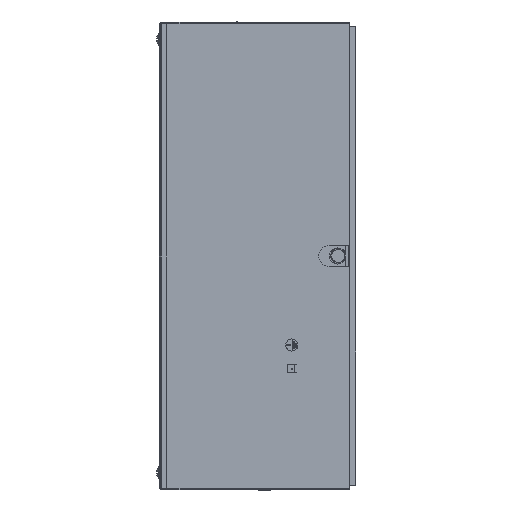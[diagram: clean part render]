
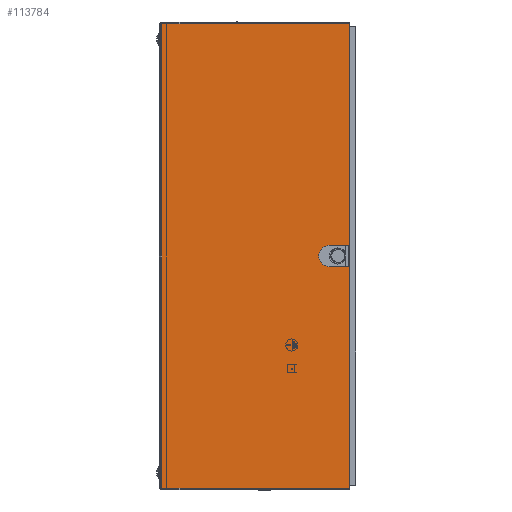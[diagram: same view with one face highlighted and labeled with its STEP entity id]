
A CAD part, left-side view. The second image highlights one B-rep face of the part: STEP entity #113784.
In plain terms, the highlighted planar face has unit normal (-1, 0, 0).
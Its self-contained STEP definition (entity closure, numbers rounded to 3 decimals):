
#1086 = CARTESIAN_POINT ( 'NONE',  ( -6.5, 0., -10.5 ) ) ;
#2317 = EDGE_LOOP ( 'NONE', ( #113794, #114042 ) ) ;
#2646 = VERTEX_POINT ( 'NONE', #66894 ) ;
#15466 = DIRECTION ( 'NONE',  ( 0., 1., 0. ) ) ;
#16640 = DIRECTION ( 'NONE',  ( 1., 0., 0. ) ) ;
#16641 = CARTESIAN_POINT ( 'NONE',  ( -6.5, 187., -232. ) ) ;
#16642 = AXIS2_PLACEMENT_3D ( 'NONE', #16641, #16640, #15466 ) ;
#16650 = FACE_OUTER_BOUND ( 'NONE', #114027, .T. ) ;
#16659 = FACE_BOUND ( 'NONE', #2317, .T. ) ;
#16670 = PLANE ( 'NONE',  #16642 ) ;
#17257 = CARTESIAN_POINT ( 'NONE',  ( -6.5, 0., 10.5 ) ) ;
#21199 = LINE ( 'NONE', #21506, #21504 ) ;
#21339 = DIRECTION ( 'NONE',  ( 0., 0., 1. ) ) ;
#21342 = VECTOR ( 'NONE', #21339, 1000. ) ;
#21502 = DIRECTION ( 'NONE',  ( 0., -1., 0. ) ) ;
#21504 = VECTOR ( 'NONE', #21502, 1000. ) ;
#21506 = CARTESIAN_POINT ( 'NONE',  ( -6.5, 187., -230.429 ) ) ;
#21538 = CARTESIAN_POINT ( 'NONE',  ( -6.5, 186., 232. ) ) ;
#21540 = LINE ( 'NONE', #21538, #21342 ) ;
#21995 = LINE ( 'NONE', #22016, #22008 ) ;
#22007 = DIRECTION ( 'NONE',  ( 0., 1., 0. ) ) ;
#22008 = VECTOR ( 'NONE', #22007, 1000. ) ;
#22016 = CARTESIAN_POINT ( 'NONE',  ( -6.5, 20., 10.5 ) ) ;
#25223 = CARTESIAN_POINT ( 'NONE',  ( -6.5, 186., -230.429 ) ) ;
#25395 = CARTESIAN_POINT ( 'NONE',  ( -6.5, 20., -10.5 ) ) ;
#25475 = CARTESIAN_POINT ( 'NONE',  ( -6.5, 20., 10.5 ) ) ;
#26069 = AXIS2_PLACEMENT_3D ( 'NONE', #26162, #26451, #26310 ) ;
#26101 = CIRCLE ( 'NONE', #26069, 0.1 ) ;
#26106 = DIRECTION ( 'NONE',  ( 0., -1., 0. ) ) ;
#26162 = CARTESIAN_POINT ( 'NONE',  ( -6.5, 57., -112. ) ) ;
#26284 = LINE ( 'NONE', #26356, #26354 ) ;
#26310 = DIRECTION ( 'NONE',  ( 0., -1., 0. ) ) ;
#26354 = VECTOR ( 'NONE', #26106, 1000. ) ;
#26356 = CARTESIAN_POINT ( 'NONE',  ( -6.5, 187., 230.429 ) ) ;
#26451 = DIRECTION ( 'NONE',  ( -1., 0., 0. ) ) ;
#38108 = CIRCLE ( 'NONE', #38124, 10.5 ) ;
#38113 = DIRECTION ( 'NONE',  ( 0., 1., 0. ) ) ;
#38115 = CARTESIAN_POINT ( 'NONE',  ( -6.5, 20., 0. ) ) ;
#38121 = DIRECTION ( 'NONE',  ( -1., 0., 0. ) ) ;
#38124 = AXIS2_PLACEMENT_3D ( 'NONE', #38115, #38121, #38113 ) ;
#40408 = LINE ( 'NONE', #40443, #40463 ) ;
#40441 = DIRECTION ( 'NONE',  ( 0., 0., 1. ) ) ;
#40443 = CARTESIAN_POINT ( 'NONE',  ( -6.5, 0., -232. ) ) ;
#40463 = VECTOR ( 'NONE', #40441, 1000. ) ;
#40522 = CARTESIAN_POINT ( 'NONE',  ( -6.5, 0., -10.5 ) ) ;
#40523 = LINE ( 'NONE', #40522, #40534 ) ;
#40533 = DIRECTION ( 'NONE',  ( 0., -1., 0. ) ) ;
#40534 = VECTOR ( 'NONE', #40533, 1000. ) ;
#66894 = CARTESIAN_POINT ( 'NONE',  ( -6.5, 0., 230.429 ) ) ;
#111935 = VERTEX_POINT ( 'NONE', #113079 ) ;
#111937 = VERTEX_POINT ( 'NONE', #113106 ) ;
#111948 = EDGE_CURVE ( 'NONE', #111937, #111935, #113323, .T. ) ;
#112184 = EDGE_CURVE ( 'NONE', #112195, #112365, #113175, .T. ) ;
#112195 = VERTEX_POINT ( 'NONE', #116347 ) ;
#112365 = VERTEX_POINT ( 'NONE', #1086 ) ;
#113027 = DIRECTION ( 'NONE',  ( 0., -1., 0. ) ) ;
#113079 = CARTESIAN_POINT ( 'NONE',  ( -6.5, 56.9, -112. ) ) ;
#113106 = CARTESIAN_POINT ( 'NONE',  ( -6.5, 57.1, -112. ) ) ;
#113175 = LINE ( 'NONE', #113996, #114028 ) ;
#113293 = DIRECTION ( 'NONE',  ( -1., 0., 0. ) ) ;
#113296 = CARTESIAN_POINT ( 'NONE',  ( -6.5, 57., -112. ) ) ;
#113298 = AXIS2_PLACEMENT_3D ( 'NONE', #113296, #113293, #113027 ) ;
#113323 = CIRCLE ( 'NONE', #113298, 0.1 ) ;
#113784 = ADVANCED_FACE ( 'NONE', ( #16659, #16650 ), #16670, .F. ) ;
#113788 = VERTEX_POINT ( 'NONE', #17257 ) ;
#113794 = ORIENTED_EDGE ( 'NONE', *, *, #114064, .F. ) ;
#113802 = ORIENTED_EDGE ( 'NONE', *, *, #114183, .F. ) ;
#113804 = EDGE_CURVE ( 'NONE', #113788, #114045, #21995, .T. ) ;
#113878 = ORIENTED_EDGE ( 'NONE', *, *, #114194, .T. ) ;
#113939 = EDGE_CURVE ( 'NONE', #114024, #112195, #21199, .T. ) ;
#113942 = EDGE_CURVE ( 'NONE', #114024, #114258, #21540, .T. ) ;
#113960 = ORIENTED_EDGE ( 'NONE', *, *, #114069, .F. ) ;
#113996 = CARTESIAN_POINT ( 'NONE',  ( -6.5, 0., -232. ) ) ;
#114024 = VERTEX_POINT ( 'NONE', #25223 ) ;
#114025 = VERTEX_POINT ( 'NONE', #25395 ) ;
#114027 = EDGE_LOOP ( 'NONE', ( #114133, #114033, #113802, #114180, #113878, #113960, #114086, #114122 ) ) ;
#114028 = VECTOR ( 'NONE', #114036, 1000. ) ;
#114033 = ORIENTED_EDGE ( 'NONE', *, *, #114191, .F. ) ;
#114036 = DIRECTION ( 'NONE',  ( 0., 0., 1. ) ) ;
#114042 = ORIENTED_EDGE ( 'NONE', *, *, #111948, .F. ) ;
#114045 = VERTEX_POINT ( 'NONE', #25475 ) ;
#114064 = EDGE_CURVE ( 'NONE', #111935, #111937, #26101, .T. ) ;
#114069 = EDGE_CURVE ( 'NONE', #114258, #2646, #26284, .T. ) ;
#114086 = ORIENTED_EDGE ( 'NONE', *, *, #113942, .F. ) ;
#114122 = ORIENTED_EDGE ( 'NONE', *, *, #113939, .T. ) ;
#114133 = ORIENTED_EDGE ( 'NONE', *, *, #112184, .T. ) ;
#114180 = ORIENTED_EDGE ( 'NONE', *, *, #113804, .F. ) ;
#114183 = EDGE_CURVE ( 'NONE', #114045, #114025, #38108, .T. ) ;
#114191 = EDGE_CURVE ( 'NONE', #114025, #112365, #40523, .T. ) ;
#114194 = EDGE_CURVE ( 'NONE', #113788, #2646, #40408, .T. ) ;
#114258 = VERTEX_POINT ( 'NONE', #116430 ) ;
#116347 = CARTESIAN_POINT ( 'NONE',  ( -6.5, 0., -230.429 ) ) ;
#116430 = CARTESIAN_POINT ( 'NONE',  ( -6.5, 186., 230.429 ) ) ;
